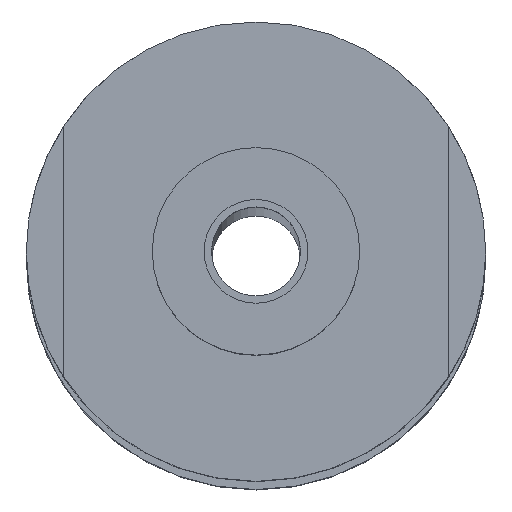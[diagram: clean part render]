
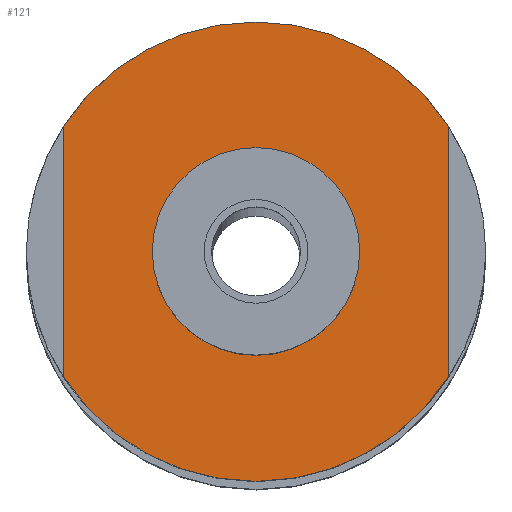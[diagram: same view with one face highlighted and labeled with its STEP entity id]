
A CAD part, top view. The second image highlights one B-rep face of the part: STEP entity #121.
In plain terms, the highlighted planar face has unit normal (0, 0, 1).
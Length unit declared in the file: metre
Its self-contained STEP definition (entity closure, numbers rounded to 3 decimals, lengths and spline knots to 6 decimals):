
#121=ADVANCED_FACE('37:1511',(#238,#239),#240,.T.);
#238=FACE_OUTER_BOUND('',#364,.T.);
#239=FACE_BOUND('',#365,.T.);
#240=PLANE('',#366);
#364=EDGE_LOOP('',(#596,#597,#598,#599,#600,#601));
#365=EDGE_LOOP('',(#602,#603));
#366=AXIS2_PLACEMENT_3D('',#604,#605,#606);
#596=ORIENTED_EDGE('',*,*,#761,.F.);
#597=ORIENTED_EDGE('',*,*,#760,.F.);
#598=ORIENTED_EDGE('',*,*,#756,.F.);
#599=ORIENTED_EDGE('',*,*,#688,.F.);
#600=ORIENTED_EDGE('',*,*,#687,.F.);
#601=ORIENTED_EDGE('',*,*,#751,.T.);
#602=ORIENTED_EDGE('',*,*,#749,.F.);
#603=ORIENTED_EDGE('',*,*,#693,.F.);
#604=CARTESIAN_POINT('',(0.0,0.0,2.695));
#605=DIRECTION('',(0.0,0.0,1.0));
#606=DIRECTION('',(1.0,0.0,0.0));
#687=EDGE_CURVE('37:1561',#812,#814,#815,.F.);
#688=EDGE_CURVE('37:1552',#814,#816,#817,.F.);
#693=EDGE_CURVE('',#822,#825,#826,.T.);
#749=EDGE_CURVE('37:1539',#825,#822,#907,.T.);
#751=EDGE_CURVE('37:3142',#812,#909,#910,.T.);
#756=EDGE_CURVE('37:2641',#816,#917,#918,.F.);
#760=EDGE_CURVE('37:1558',#917,#922,#923,.F.);
#761=EDGE_CURVE('37:1549',#922,#909,#924,.F.);
#812=VERTEX_POINT('',#1001);
#814=VERTEX_POINT('',#1004);
#815=CIRCLE('',#1005,0.0155);
#816=VERTEX_POINT('',#1006);
#817=CIRCLE('',#1007,0.0155);
#822=VERTEX_POINT('',#1013);
#825=VERTEX_POINT('',#1017);
#826=CIRCLE('',#1018,0.007);
#907=CIRCLE('',#1116,0.007);
#909=VERTEX_POINT('',#1118);
#910=LINE('',#1119,#1120);
#917=VERTEX_POINT('',#1130);
#918=LINE('',#1131,#1132);
#922=VERTEX_POINT('',#1137);
#923=CIRCLE('',#1138,0.0155);
#924=CIRCLE('',#1139,0.0155);
#1001=CARTESIAN_POINT('',(-0.013092,0.008536,2.695));
#1004=CARTESIAN_POINT('',(-0.000092,0.015595,2.695));
#1005=AXIS2_PLACEMENT_3D('',#1221,#1222,#1223);
#1006=CARTESIAN_POINT('',(0.012908,0.008536,2.695));
#1007=AXIS2_PLACEMENT_3D('',#1224,#1225,#1226);
#1013=CARTESIAN_POINT('',(0.006908,0.000095,2.695));
#1017=CARTESIAN_POINT('',(-0.007092,0.000095,2.695));
#1018=AXIS2_PLACEMENT_3D('',#1232,#1233,#1234);
#1116=AXIS2_PLACEMENT_3D('',#1318,#1319,#1320);
#1118=CARTESIAN_POINT('',(-0.013092,-0.008346,2.695));
#1119=CARTESIAN_POINT('',(-0.013092,0.000048,2.695));
#1120=VECTOR('',#1321,1.0);
#1130=CARTESIAN_POINT('',(0.012908,-0.008346,2.695));
#1131=CARTESIAN_POINT('',(0.012908,0.000048,2.695));
#1132=VECTOR('',#1325,1.0);
#1137=CARTESIAN_POINT('',(-0.000092,-0.015405,2.695));
#1138=AXIS2_PLACEMENT_3D('',#1330,#1331,#1332);
#1139=AXIS2_PLACEMENT_3D('',#1333,#1334,#1335);
#1221=CARTESIAN_POINT('',(-0.000092,0.000095,2.695));
#1222=DIRECTION('',(0.0,0.0,1.0));
#1223=DIRECTION('',(1.0,0.0,0.0));
#1224=CARTESIAN_POINT('',(-0.000092,0.000095,2.695));
#1225=DIRECTION('',(0.0,0.0,1.0));
#1226=DIRECTION('',(1.0,0.0,0.0));
#1232=CARTESIAN_POINT('',(-0.000092,0.000095,2.695));
#1233=DIRECTION('',(0.0,0.0,1.0));
#1234=DIRECTION('',(1.0,0.0,-0.0));
#1318=CARTESIAN_POINT('',(-0.000092,0.000095,2.695));
#1319=DIRECTION('',(0.0,0.0,1.0));
#1320=DIRECTION('',(1.0,0.0,-0.0));
#1321=DIRECTION('',(0.,-1.0,0.0));
#1325=DIRECTION('',(0.,1.0,0.0));
#1330=CARTESIAN_POINT('',(-0.000092,0.000095,2.695));
#1331=DIRECTION('',(0.0,0.0,1.0));
#1332=DIRECTION('',(1.0,0.0,0.0));
#1333=CARTESIAN_POINT('',(-0.000092,0.000095,2.695));
#1334=DIRECTION('',(0.0,0.0,1.0));
#1335=DIRECTION('',(1.0,0.0,0.0));
